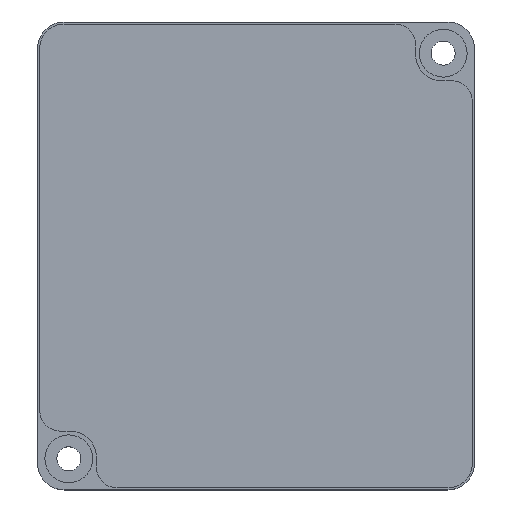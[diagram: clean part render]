
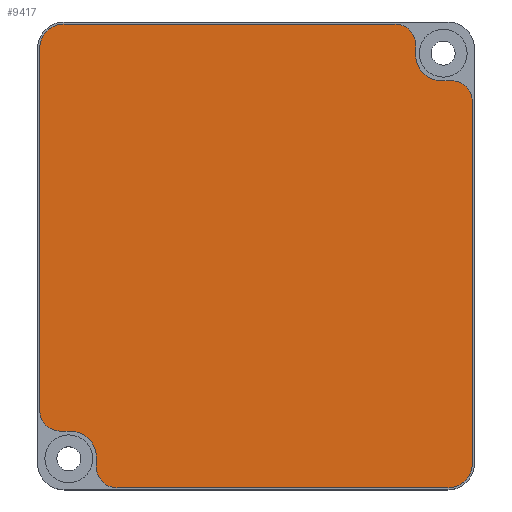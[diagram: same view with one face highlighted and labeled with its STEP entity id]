
A CAD part, top view. The second image highlights one B-rep face of the part: STEP entity #9417.
In plain terms, the highlighted planar face has unit normal (0, 0, 1).
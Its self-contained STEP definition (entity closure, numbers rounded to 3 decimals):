
#8579=AXIS2_PLACEMENT_3D('Circle Axis2P3D',#8577,#8578,$) ;
#8707=AXIS2_PLACEMENT_3D('Circle Axis2P3D',#8705,#8706,$) ;
#8738=AXIS2_PLACEMENT_3D('Circle Axis2P3D',#8736,#8737,$) ;
#8788=AXIS2_PLACEMENT_3D('Circle Axis2P3D',#8786,#8787,$) ;
#8850=AXIS2_PLACEMENT_3D('Circle Axis2P3D',#8848,#8849,$) ;
#8926=AXIS2_PLACEMENT_3D('Circle Axis2P3D',#8924,#8925,$) ;
#9289=AXIS2_PLACEMENT_3D('Circle Axis2P3D',#9287,#9288,$) ;
#9358=AXIS2_PLACEMENT_3D('Circle Axis2P3D',#9356,#9357,$) ;
#9397=AXIS2_PLACEMENT_3D('Plane Axis2P3D',#9394,#9395,#9396) ;
#8560=CARTESIAN_POINT('Vertex',(39.46,0.2,3.)) ;
#8574=CARTESIAN_POINT('Vertex',(41.8,2.54,3.)) ;
#8577=CARTESIAN_POINT('Axis2P3D Location',(39.46,2.54,3.)) ;
#8600=CARTESIAN_POINT('Vertex',(7.65,0.2,3.)) ;
#8608=CARTESIAN_POINT('Line Origine',(23.555,0.2,3.)) ;
#8705=CARTESIAN_POINT('Axis2P3D Location',(7.65,2.2,3.)) ;
#8709=CARTESIAN_POINT('Vertex',(5.65,2.2,3.)) ;
#8733=CARTESIAN_POINT('Vertex',(5.65,3.15,3.)) ;
#8736=CARTESIAN_POINT('Axis2P3D Location',(3.15,3.15,3.)) ;
#8740=CARTESIAN_POINT('Vertex',(3.15,5.65,3.)) ;
#8760=CARTESIAN_POINT('Line Origine',(5.65,2.675,3.)) ;
#8781=CARTESIAN_POINT('Vertex',(36.35,41.85,3.)) ;
#8786=CARTESIAN_POINT('Axis2P3D Location',(38.85,41.85,3.)) ;
#8790=CARTESIAN_POINT('Vertex',(38.85,39.35,3.)) ;
#8823=CARTESIAN_POINT('Vertex',(36.35,42.8,3.)) ;
#8826=CARTESIAN_POINT('Line Origine',(36.35,42.325,3.)) ;
#8848=CARTESIAN_POINT('Axis2P3D Location',(34.35,42.8,3.)) ;
#8852=CARTESIAN_POINT('Vertex',(34.35,44.8,3.)) ;
#8890=CARTESIAN_POINT('Vertex',(2.54,44.8,3.)) ;
#8893=CARTESIAN_POINT('Line Origine',(18.445,44.8,3.)) ;
#8921=CARTESIAN_POINT('Vertex',(0.2,42.46,3.)) ;
#8924=CARTESIAN_POINT('Axis2P3D Location',(2.54,42.46,3.)) ;
#9265=CARTESIAN_POINT('Vertex',(2.2,5.65,3.)) ;
#9268=CARTESIAN_POINT('Line Origine',(2.675,5.65,3.)) ;
#9287=CARTESIAN_POINT('Axis2P3D Location',(2.2,7.65,3.)) ;
#9291=CARTESIAN_POINT('Vertex',(0.2,7.65,3.)) ;
#9311=CARTESIAN_POINT('Line Origine',(0.2,25.055,3.)) ;
#9334=CARTESIAN_POINT('Vertex',(39.8,39.35,3.)) ;
#9337=CARTESIAN_POINT('Line Origine',(39.325,39.35,3.)) ;
#9356=CARTESIAN_POINT('Axis2P3D Location',(39.8,37.35,3.)) ;
#9360=CARTESIAN_POINT('Vertex',(41.8,37.35,3.)) ;
#9380=CARTESIAN_POINT('Line Origine',(41.8,19.945,3.)) ;
#9394=CARTESIAN_POINT('Axis2P3D Location',(0.,0.,3.)) ;
#8578=DIRECTION('Axis2P3D Direction',(0.,0.,1.)) ;
#8609=DIRECTION('Vector Direction',(-1.,0.,0.)) ;
#8706=DIRECTION('Axis2P3D Direction',(0.,0.,1.)) ;
#8737=DIRECTION('Axis2P3D Direction',(0.,0.,1.)) ;
#8761=DIRECTION('Vector Direction',(0.,1.,0.)) ;
#8787=DIRECTION('Axis2P3D Direction',(0.,0.,1.)) ;
#8827=DIRECTION('Vector Direction',(0.,-1.,0.)) ;
#8849=DIRECTION('Axis2P3D Direction',(0.,-0.,1.)) ;
#8894=DIRECTION('Vector Direction',(1.,0.,0.)) ;
#8925=DIRECTION('Axis2P3D Direction',(0.,0.,1.)) ;
#9269=DIRECTION('Vector Direction',(-1.,0.,0.)) ;
#9288=DIRECTION('Axis2P3D Direction',(0.,0.,1.)) ;
#9312=DIRECTION('Vector Direction',(0.,1.,0.)) ;
#9338=DIRECTION('Vector Direction',(1.,0.,0.)) ;
#9357=DIRECTION('Axis2P3D Direction',(0.,-0.,1.)) ;
#9381=DIRECTION('Vector Direction',(0.,-1.,0.)) ;
#9395=DIRECTION('Axis2P3D Direction',(0.,0.,1.)) ;
#9396=DIRECTION('Axis2P3D XDirection',(1.,0.,0.)) ;
#8610=VECTOR('Line Direction',#8609,1.) ;
#8762=VECTOR('Line Direction',#8761,1.) ;
#8828=VECTOR('Line Direction',#8827,1.) ;
#8895=VECTOR('Line Direction',#8894,1.) ;
#9270=VECTOR('Line Direction',#9269,1.) ;
#9313=VECTOR('Line Direction',#9312,1.) ;
#9339=VECTOR('Line Direction',#9338,1.) ;
#9382=VECTOR('Line Direction',#9381,1.) ;
#9400=ORIENTED_EDGE('',*,*,#9341,.T.) ;
#9401=ORIENTED_EDGE('',*,*,#8792,.T.) ;
#9402=ORIENTED_EDGE('',*,*,#8830,.T.) ;
#9403=ORIENTED_EDGE('',*,*,#8854,.F.) ;
#9404=ORIENTED_EDGE('',*,*,#8897,.T.) ;
#9405=ORIENTED_EDGE('',*,*,#8928,.T.) ;
#9406=ORIENTED_EDGE('',*,*,#9315,.T.) ;
#9407=ORIENTED_EDGE('',*,*,#9293,.F.) ;
#9408=ORIENTED_EDGE('',*,*,#9272,.T.) ;
#9409=ORIENTED_EDGE('',*,*,#8742,.T.) ;
#9410=ORIENTED_EDGE('',*,*,#8764,.T.) ;
#9411=ORIENTED_EDGE('',*,*,#8711,.F.) ;
#9412=ORIENTED_EDGE('',*,*,#8612,.T.) ;
#9413=ORIENTED_EDGE('',*,*,#8581,.T.) ;
#9414=ORIENTED_EDGE('',*,*,#9384,.T.) ;
#9415=ORIENTED_EDGE('',*,*,#9362,.F.) ;
#9417=ADVANCED_FACE('Over-Under-Surface',(#9416),#9398,.T.) ;
#8580=CIRCLE('generated circle',#8579,2.34) ;
#8708=CIRCLE('generated circle',#8707,2.) ;
#8739=CIRCLE('generated circle',#8738,2.5) ;
#8789=CIRCLE('generated circle',#8788,2.5) ;
#8851=CIRCLE('generated circle',#8850,2.) ;
#8927=CIRCLE('generated circle',#8926,2.34) ;
#9290=CIRCLE('generated circle',#9289,2.) ;
#9359=CIRCLE('generated circle',#9358,2.) ;
#8581=EDGE_CURVE('',#8561,#8575,#8580,.T.) ;
#8612=EDGE_CURVE('',#8601,#8561,#8611,.F.) ;
#8711=EDGE_CURVE('',#8601,#8710,#8708,.F.) ;
#8742=EDGE_CURVE('',#8741,#8734,#8739,.F.) ;
#8764=EDGE_CURVE('',#8734,#8710,#8763,.F.) ;
#8792=EDGE_CURVE('',#8791,#8782,#8789,.F.) ;
#8830=EDGE_CURVE('',#8782,#8824,#8829,.F.) ;
#8854=EDGE_CURVE('',#8853,#8824,#8851,.F.) ;
#8897=EDGE_CURVE('',#8853,#8891,#8896,.F.) ;
#8928=EDGE_CURVE('',#8891,#8922,#8927,.T.) ;
#9272=EDGE_CURVE('',#9266,#8741,#9271,.F.) ;
#9293=EDGE_CURVE('',#9266,#9292,#9290,.F.) ;
#9315=EDGE_CURVE('',#8922,#9292,#9314,.F.) ;
#9341=EDGE_CURVE('',#9335,#8791,#9340,.F.) ;
#9362=EDGE_CURVE('',#9335,#9361,#9359,.F.) ;
#9384=EDGE_CURVE('',#8575,#9361,#9383,.F.) ;
#9399=EDGE_LOOP('',(#9400,#9401,#9402,#9403,#9404,#9405,#9406,#9407,#9408,#9409,#9410,#9411,#9412,#9413,#9414,#9415)) ;
#9416=FACE_OUTER_BOUND('',#9399,.T.) ;
#8611=LINE('Line',#8608,#8610) ;
#8763=LINE('Line',#8760,#8762) ;
#8829=LINE('Line',#8826,#8828) ;
#8896=LINE('Line',#8893,#8895) ;
#9271=LINE('Line',#9268,#9270) ;
#9314=LINE('Line',#9311,#9313) ;
#9340=LINE('Line',#9337,#9339) ;
#9383=LINE('Line',#9380,#9382) ;
#9398=PLANE('Plane',#9397) ;
#8561=VERTEX_POINT('',#8560) ;
#8575=VERTEX_POINT('',#8574) ;
#8601=VERTEX_POINT('',#8600) ;
#8710=VERTEX_POINT('',#8709) ;
#8734=VERTEX_POINT('',#8733) ;
#8741=VERTEX_POINT('',#8740) ;
#8782=VERTEX_POINT('',#8781) ;
#8791=VERTEX_POINT('',#8790) ;
#8824=VERTEX_POINT('',#8823) ;
#8853=VERTEX_POINT('',#8852) ;
#8891=VERTEX_POINT('',#8890) ;
#8922=VERTEX_POINT('',#8921) ;
#9266=VERTEX_POINT('',#9265) ;
#9292=VERTEX_POINT('',#9291) ;
#9335=VERTEX_POINT('',#9334) ;
#9361=VERTEX_POINT('',#9360) ;
